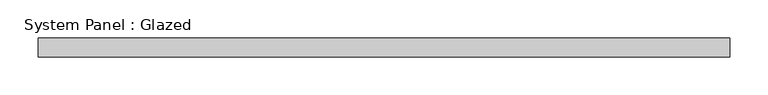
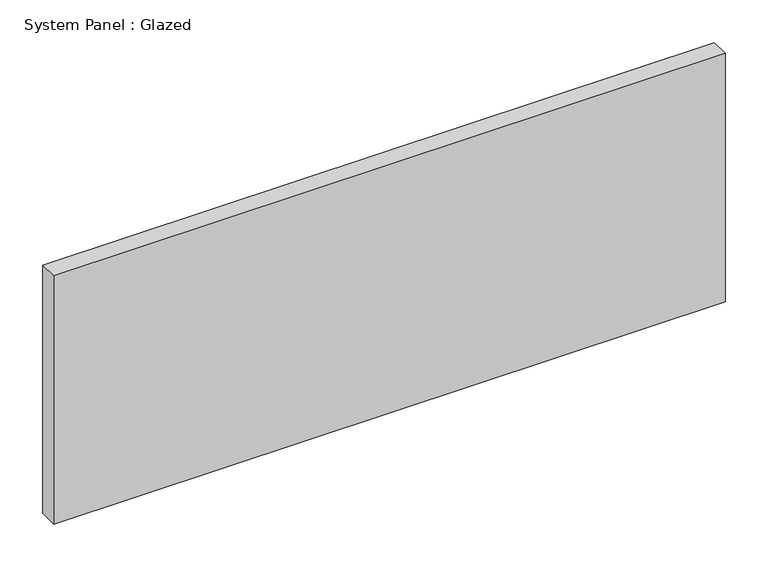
"""IFC4 building model written with IfcOpenShell, lengths in millimetres: plate geometry, System Panel : Glazed."""

from ifc_helpers import new_model, si_unit, origin, origin_with_axes, place, context, project, spatial, polyline, outline, extrude, source, transform, mapped, element, save


def system_panel_glazed_b077d2dc(model_context):
    return source(origin(), model_context, "Body", "SweptSolid", [
        extrude(outline(polyline([(454.52, -44.45), (-454.52, -44.45), (-454.52, -19.05), (454.52, -19.05), (454.52, -44.45)])), origin_with_axes(), (0.0, 0.0, 1.0), 355.0),
    ])


if __name__ == "__main__":
    model = new_model("IFC4")
    model_context = context("Model", 3, world=origin())
    ifc_project = project(units=[si_unit("LENGTHUNIT", "METRE", prefix="MILLI")], contexts=[model_context])
    site = spatial("IfcSite", under=ifc_project)
    building = spatial("IfcBuilding", under=site)
    placement = place(None, origin())
    system_panel_glazed_shape = system_panel_glazed_b077d2dc(model_context)
    element("IfcPlate", 1, ObjectType="System Panel : Glazed", at=placement, inside=building, context=model_context, shape_type="MappedRepresentation", body=[
        mapped(system_panel_glazed_shape, transform((0.0, 0.0, 0.0), x_axis=(1.0, 0.0, 0.0), y_axis=(0.0, 1.0, 0.0), z_axis=(0.0, 0.0, 1.0))),
    ])
    save(model, "model.ifc")
